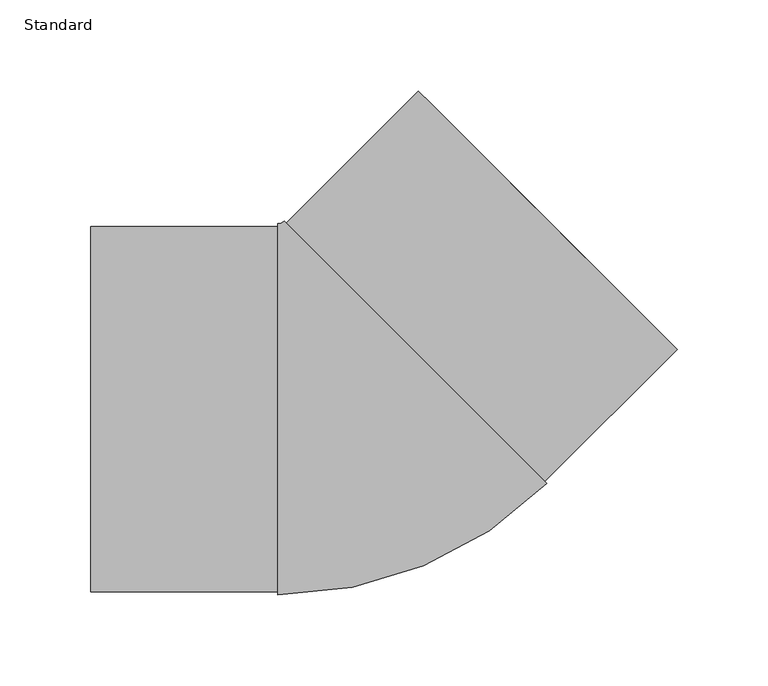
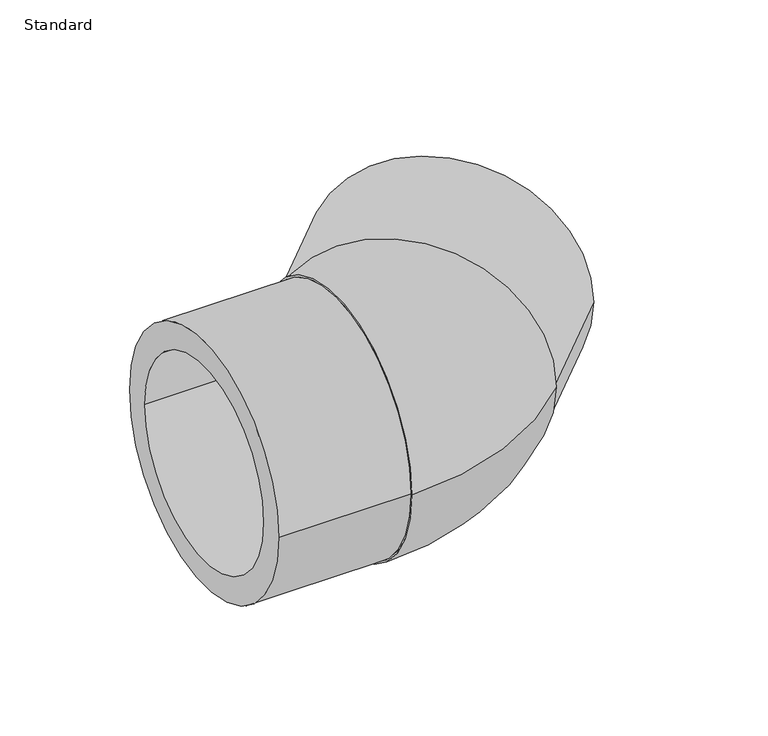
"""IFC4 building model written with IfcOpenShell, lengths in millimetres: pipe fitting geometry, EGB_VASEN_ PPR_Codo a tope 90 WXRB200_Codo a tope 45 WXRB220 : Standard."""

from ifc_helpers import new_model, si_unit, point, frame, origin, place, context, project, spatial, polyline, circle_curve, ellipse_curve, trimmed, source, transform, mapped, element, save
from ifc_brep_helpers import plane_surface, cylinder_surface, revolved_surface, advanced_brep


def standard_3079c4ec(model_context):
    return source(origin(), model_context, "Body", "AdvancedBrep", [
        advanced_brep(
        [(-147.0, -100.5, 0.0), (-147.0, 100.5, 0.0), (-147.0, -80.0, 0.0), (-147.0, 80.0, 0.0), (-44.2497834, -100.5, 0.0), (-44.2497834, 100.5, 0.0), (-44.2497834, -80.0, 0.0), (-44.2497834, 80.0, 0.0), (-44.2497834, -102.0, 0.0), (-44.2497834, 102.0, 0.0), (103.4142136, -40.8355698, 0.0), (-40.8355698, 103.4142136, 0.0), (102.3535534, -39.7749096, 0.0), (-39.7749096, 102.3535534, 0.0), (87.8578644, -25.2792206, 0.0), (-25.2792206, 87.8578644, 0.0), (175.0089283, 32.8804653, 0.0), (32.8804653, 175.0089283, 0.0), (160.5132393, 47.3761543, 0.0), (47.3761543, 160.5132393, 0.0)],
        [
            (0, 1, circle_curve(frame((-147.0, 0.0, 0.0), z_axis=(-1.0, 0.0, 0.0), x_axis=(0.0, 1.0, 0.0)), 100.5)),
            (1, 0, circle_curve(frame((-147.0, 0.0, 0.0), z_axis=(-1.0, 0.0, 0.0), x_axis=(0.0, 1.0, 0.0)), 100.5)),
            (2, 3, circle_curve(frame((-147.0, 0.0, 0.0), z_axis=(1.0, 0.0, 0.0), x_axis=(0.0, 1.0, 0.0)), 80.0)),
            (3, 2, circle_curve(frame((-147.0, 0.0, 0.0), z_axis=(1.0, 0.0, 0.0), x_axis=(0.0, 1.0, 0.0)), 80.0)),
            (0, 4),
            (4, 5, circle_curve(frame((-44.2497834, 0.0, 0.0), z_axis=(-1.0, 0.0, 0.0), x_axis=(0.0, 1.0, 0.0)), 100.5)),
            (5, 1),
            (5, 4, circle_curve(frame((-44.2497834, 0.0, 0.0), z_axis=(-1.0, 0.0, 0.0), x_axis=(0.0, 1.0, 0.0)), 100.5)),
            (2, 6),
            (6, 7, circle_curve(frame((-44.2497834, 0.0, 0.0), z_axis=(1.0, 0.0, 0.0), x_axis=(0.0, 1.0, 0.0)), 80.0)),
            (7, 3),
            (7, 6, circle_curve(frame((-44.2497834, 0.0, 0.0), z_axis=(1.0, 0.0, 0.0), x_axis=(0.0, 1.0, 0.0)), 80.0)),
            (8, 9, circle_curve(frame((-44.2497834, 0.0, 0.0), z_axis=(-1.0, 0.0, 0.0), x_axis=(0.0, 1.0, 0.0)), 102.0)),
            (9, 8, circle_curve(frame((-44.2497834, 0.0, 0.0), z_axis=(-1.0, 0.0, 0.0), x_axis=(0.0, 1.0, 0.0)), 102.0)),
            (10, 11, circle_curve(frame((31.2893219, 31.2893219, 0.0), z_axis=(0.7071067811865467, 0.7071067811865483, 0.0), x_axis=(-0.7071067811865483, 0.7071067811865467, 0.0)), 102.0)),
            (11, 10, circle_curve(frame((31.2893219, 31.2893219, 0.0), z_axis=(0.7071067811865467, 0.7071067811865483, 0.0), x_axis=(-0.7071067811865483, 0.7071067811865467, 0.0)), 102.0)),
            (12, 13, circle_curve(frame((31.2893219, 31.2893219, 0.0), z_axis=(-0.7071067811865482, -0.7071067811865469, 0.0), x_axis=(-0.7071067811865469, 0.7071067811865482, 0.0)), 100.5)),
            (13, 12, circle_curve(frame((31.2893219, 31.2893219, 0.0), z_axis=(-0.7071067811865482, -0.7071067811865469, 0.0), x_axis=(-0.7071067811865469, 0.7071067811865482, 0.0)), 100.5)),
            (14, 15, circle_curve(frame((31.2893219, 31.2893219, 0.0), z_axis=(0.7071067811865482, 0.7071067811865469, 0.0), x_axis=(-0.7071067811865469, 0.7071067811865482, 0.0)), 80.0)),
            (15, 14, circle_curve(frame((31.2893219, 31.2893219, 0.0), z_axis=(0.7071067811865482, 0.7071067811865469, 0.0), x_axis=(-0.7071067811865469, 0.7071067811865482, 0.0)), 80.0)),
            (8, 10, circle_curve(frame((-44.2497834, 106.8284271, 0.0), z_axis=(0.0, 0.0, 1.0), x_axis=(0.0, -1.0, 0.0)), 208.8284271)),
            (11, 9, circle_curve(frame((-44.2497834, 106.8284271, 0.0), z_axis=(0.0, 0.0, -1.0), x_axis=(0.0, -1.0, 0.0)), 4.8284271)),
            (16, 17, circle_curve(frame((103.9446968, 103.9446968, 0.0), z_axis=(0.7071067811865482, 0.7071067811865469, 0.0), x_axis=(-0.7071067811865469, 0.7071067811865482, 0.0)), 100.5)),
            (17, 16, circle_curve(frame((103.9446968, 103.9446968, 0.0), z_axis=(0.7071067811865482, 0.7071067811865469, 0.0), x_axis=(-0.7071067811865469, 0.7071067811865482, 0.0)), 100.5)),
            (18, 19, circle_curve(frame((103.9446968, 103.9446968, 0.0), z_axis=(-0.7071067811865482, -0.7071067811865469, 0.0), x_axis=(-0.7071067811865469, 0.7071067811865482, 0.0)), 80.0)),
            (19, 18, circle_curve(frame((103.9446968, 103.9446968, 0.0), z_axis=(-0.7071067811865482, -0.7071067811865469, 0.0), x_axis=(-0.7071067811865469, 0.7071067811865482, 0.0)), 80.0)),
            (17, 13),
            (12, 16),
            (19, 15),
            (14, 18),
        ],
        [
            plane_surface(frame((-147.0, 0.0, 0.0), z_axis=(-1.0, 0.0, 0.0), x_axis=(0.0, 0.0, 1.0))),
            cylinder_surface(frame((-147.0, 0.0, 0.0), z_axis=(-1.0, 0.0, 0.0), x_axis=(0.0, 1.0, 0.0)), 100.5),
            revolved_surface(polyline([(-44.2497834, 80.0, 0.0), (-147.0, 80.0, 0.0)]), (-147.0, 0.0, 0.0), (1.0, 0.0, 0.0)),
            plane_surface(frame((-44.2497834, 0.0, 0.0), z_axis=(-1.0, 0.0, 0.0), x_axis=(0.0, 0.0, 1.0))),
            plane_surface(frame((31.2893219, 31.2893219, 0.0), z_axis=(0.7071067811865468, 0.7071067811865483, 0.0), x_axis=(0.0, 0.0, 1.0))),
            revolved_surface(trimmed(ellipse_curve(frame((-44.2497834, 0.0, 0.0), z_axis=(-1.0, 0.0, 0.0), x_axis=(0.0, 1.0, 0.0)), 102.0, 102.0), [point((-44.2497834, -102.0, 0.0))], [point((-44.2497834, 102.0, 0.0))], True, "CARTESIAN"), (-44.2497834, 106.8284271, 0.0), (0.0, 0.0, 1.0)),
            revolved_surface(trimmed(ellipse_curve(frame((-44.2497834, 0.0, 0.0), z_axis=(-1.0, 0.0, 0.0), x_axis=(0.0, 1.0, 0.0)), 102.0, 102.0), [point((-44.2497834, 102.0, 0.0))], [point((-44.2497834, -102.0, 0.0))], True, "CARTESIAN"), (-44.2497834, 106.8284271, 0.0), (0.0, 0.0, 1.0)),
            plane_surface(frame((103.9446968, 103.9446968, 0.0), z_axis=(0.7071067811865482, 0.7071067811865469, 0.0), x_axis=(0.0, 0.0, 1.0))),
            cylinder_surface(frame((31.2893219, 31.2893219, 0.0), z_axis=(-0.7071067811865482, -0.7071067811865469, 0.0), x_axis=(-0.7071067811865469, 0.7071067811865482, 0.0)), 100.5),
            revolved_surface(polyline([(47.37615430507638, 160.51323929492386, 0.0), (-25.279220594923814, 87.85786439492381, 0.0)]), (31.2893219, 31.2893219, 0.0), (0.7071067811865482, 0.7071067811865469, 0.0)),
        ],
        [
            (0, [[1, 2], [3, 4]]),
            (1, [[-1, 5, 6, 7]]),
            (1, [[-2, -7, 8, -5]]),
            (2, [[-3, 9, 10, 11]]),
            (2, [[-4, -11, 12, -9]]),
            (3, [[-10, -12]]),
            (3, [[13, 14], [-6, -8]]),
            (4, [[15, 16], [17, 18]]),
            (4, [[19, 20]]),
            (5, [[-13, 21, -16, 22]]),
            (6, [[-14, -22, -15, -21]]),
            (7, [[23, 24], [25, 26]]),
            (8, [[-24, 27, -17, 28]]),
            (8, [[-23, -28, -18, -27]]),
            (9, [[-26, 29, -19, 30]]),
            (9, [[-25, -30, -20, -29]]),
        ],
    ),
    ])


if __name__ == "__main__":
    model = new_model("IFC4")
    model_context = context("Model", 3, world=origin())
    ifc_project = project(units=[si_unit("LENGTHUNIT", "METRE", prefix="MILLI")], contexts=[model_context])
    site = spatial("IfcSite", under=ifc_project)
    building = spatial("IfcBuilding", under=site)
    placement = place(None, origin())
    standard_shape = standard_3079c4ec(model_context)
    element("IfcPipeFitting", 1, ObjectType="EGB_VASEN_ PPR_Codo a tope 90 WXRB200_Codo a tope 45 WXRB220 : Standard", at=placement, inside=building, context=model_context, shape_type="MappedRepresentation", body=[
        mapped(standard_shape, transform((0.0, 0.0, 0.0), x_axis=(1.0, 0.0, 0.0), y_axis=(0.0, 1.0, 0.0), z_axis=(0.0, 0.0, 1.0))),
    ])
    save(model, "model.ifc")
